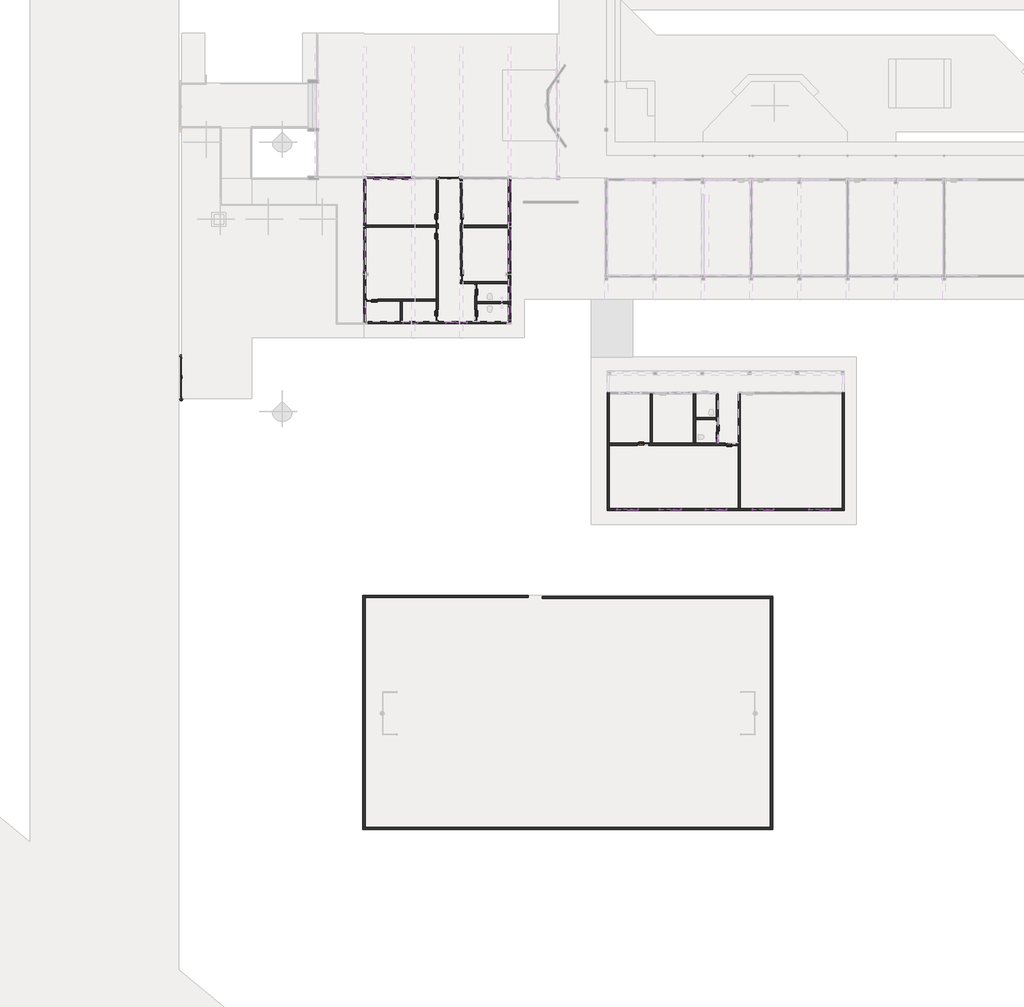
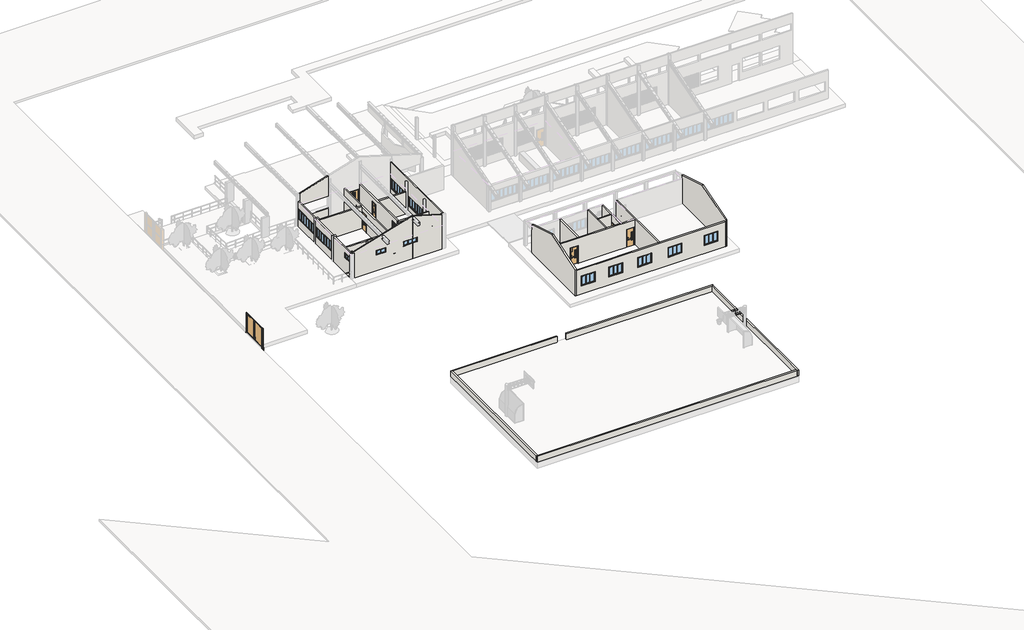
# One storey, part 1 of 12: 30 walls, 15 windows, 13 doors.
"""IFC4 building model written with IfcOpenShell, lengths in millimetres."""

from ifc_helpers import new_model, si_unit, frame, origin, place, context, project, spatial, polyline, outline, extrude, faceted_brep, transform, mapped, element, save
from components import door_2b58ae42, door_062d9f42, door_b9a7b7f6, door_f5953a39, door_f67fff5c, door_7c62873f, double_action_double_door_8597_150x210cm_23852583, pt35_300x235cm_00b904e5, window_300_x_110_bd0b738a, janela_fc375d33, janela_100x50_100_x_50_44f83ede, janela_150x110_150_x_110_7297cc43, janela_150x110_150_x_50_c6653376

model = new_model("IFC4")

# Units and contexts
model_context = context("Model", 3, world=origin())
ifc_project = project(units=[si_unit("LENGTHUNIT", "METRE", prefix="MILLI")], contexts=[model_context])

# Site, building, storey
site = spatial("IfcSite", under=ifc_project)
building = spatial("IfcBuilding", under=site)
storey = spatial("IfcBuildingStorey", under=building, Name="Nível 1", Elevation=0.0)

# Doors
placement = place(None, origin())
door_shape = door_2b58ae42(model_context)
element("IfcDoor", 1, ObjectType="Porta sala de aula e laboratorio : Porta sala de aula e laboratorio", at=placement, inside=storey, context=model_context, shape_type="MappedRepresentation", body=[
    mapped(door_shape, transform((5466.5398414, -3493.8137522, 300.0), x_axis=(-1.0, 0.0, 0.0), y_axis=(0.0, -1.0, 0.0), z_axis=(0.0, 0.0, 1.0))),
])
element("IfcDoor", 2, ObjectType="Porta area administrativa : Porta area administrativa", at=placement, inside=storey, context=model_context, shape_type="MappedRepresentation", body=[
    mapped(door_shape, transform((-7713.3111843, 8826.1710904, 300.0), x_axis=(0.0, 1.0, 0.0), y_axis=(-1.0, 0.0, 0.0), z_axis=(0.0, 0.0, 1.0))),
])
element("IfcDoor", 3, ObjectType="Porta area administrativa : Porta area administrativa", at=placement, inside=storey, context=model_context, shape_type="MappedRepresentation", body=[
    mapped(door_shape, transform((-9463.3111843, 11736.0481484, 300.0), x_axis=(0.0, -1.0, 0.0), y_axis=(1.0, 0.0, 0.0), z_axis=(0.0, 0.0, 1.0))),
])
element("IfcDoor", 4, ObjectType="Porta area administrativa : Porta area administrativa", at=placement, inside=storey, context=model_context, shape_type="MappedRepresentation", body=[
    mapped(door_shape, transform((-7713.3111843, 12923.0714891, 300.0), x_axis=(0.0, 1.0, 0.0), y_axis=(-1.0, 0.0, 0.0), z_axis=(0.0, 0.0, 1.0))),
])
door_2_shape = door_062d9f42(model_context)
element("IfcDoor", 5, ObjectType="Porta banheiros : Porta banheiros", at=placement, inside=storey, context=model_context, shape_type="MappedRepresentation", body=[
    mapped(door_2_shape, transform((10851.5285525, -2193.7444242, 300.0), x_axis=(0.0, -1.0, 0.0), y_axis=(1.0, 0.0, 0.0), z_axis=(0.0, 0.0, 1.0))),
])
element("IfcDoor", 6, ObjectType="Porta banheiros : Porta banheiros", at=placement, inside=storey, context=model_context, shape_type="MappedRepresentation", body=[
    mapped(door_2_shape, transform((-6663.3111843, 7676.1710904, 300.0), x_axis=(0.0, -1.0, 0.0), y_axis=(1.0, 0.0, 0.0), z_axis=(0.0, 0.0, 1.0))),
])
door_3_shape = door_b9a7b7f6(model_context)
element("IfcDoor", 7, ObjectType="Porta banheiros : Porta banheiros", at=placement, inside=storey, context=model_context, shape_type="MappedRepresentation", body=[
    mapped(door_3_shape, transform((-6663.3111843, 5866.1710904, 300.0), x_axis=(0.0, 1.0, 0.0), y_axis=(-1.0, 0.0, 0.0), z_axis=(0.0, 0.0, 1.0))),
])
door_4_shape = door_f5953a39(model_context)
element("IfcDoor", 8, ObjectType="Porta area de servico : Porta area de servico", at=placement, inside=storey, context=model_context, shape_type="MappedRepresentation", body=[
    mapped(door_4_shape, transform((-9463.3111843, 5886.1710904, 300.0), x_axis=(0.0, 1.0, 0.0), y_axis=(-1.0, 0.0, 0.0), z_axis=(0.0, 0.0, 1.0))),
])
door_5_shape = door_f67fff5c(model_context)
element("IfcDoor", 9, ObjectType="Porta area de servico : Porta area de servico", at=placement, inside=storey, context=model_context, shape_type="MappedRepresentation", body=[
    mapped(door_5_shape, transform((-14153.4946316, 6971.1710904, 300.0), x_axis=(1.0, 0.0, 0.0), y_axis=(0.0, 1.0, 0.0), z_axis=(0.0, 0.0, 1.0))),
])
door_6_shape = door_7c62873f(model_context)
element("IfcDoor", 10, ObjectType="Porta area administrativa : Porta area administrativa", at=placement, inside=storey, context=model_context, shape_type="MappedRepresentation", body=[
    mapped(door_6_shape, transform((-9463.3111843, 12906.0481484, 300.0), x_axis=(0.0, 1.0, 0.0), y_axis=(-1.0, 0.0, 0.0), z_axis=(0.0, 0.0, 1.0))),
])
element("IfcDoor", 11, ObjectType="Porta sala de aula e laboratorio : Porta sala de aula e laboratorio", at=placement, inside=storey, context=model_context, shape_type="MappedRepresentation", body=[
    mapped(door_6_shape, transform((11831.5285525, -3493.8137522, 300.0), x_axis=(-1.0, 0.0, 0.0), y_axis=(0.0, -1.0, 0.0), z_axis=(0.0, 0.0, 1.0))),
])
double_action_double_door_8597_150x210cm_shape = double_action_double_door_8597_150x210cm_23852583(model_context)
element("IfcDoor", 12, ObjectType="Double_action_double_door_8597 : 150x210cm", at=placement, inside=storey, context=model_context, shape_type="MappedRepresentation", body=[
    mapped(double_action_double_door_8597_150x210cm_shape, transform((-8603.3111843, 15821.0481484, 300.0), x_axis=(-1.0, 0.0, 0.0), y_axis=(0.0, -1.0, 0.0), z_axis=(0.0, 0.0, 1.0))),
])
pt35_300x235cm_shape = pt35_300x235cm_00b904e5(model_context)
element("IfcDoor", 13, ObjectType="FDE_PT34_PT35_Portão_UsoExterno_GradilEletrofundido_2Folhas : PT35_300x235cm", at=placement, inside=storey, context=model_context, shape_type="MappedRepresentation", body=[
    mapped(pt35_300x235cm_shape, transform((-28018.5268603, 1331.1862478, -20.0), x_axis=(0.0, -1.0, 0.0), y_axis=(1.0, 0.0, 0.0), z_axis=(0.0, 0.0, 1.0))),
])

# Walls
element("IfcWall", 14, ObjectType="15cm - Parede Genérica", at=placement, inside=storey, context=model_context, shape_type="Brep", body=[
    faceted_brep([(-14793.4946316, 6491.1710904, 2165.0), (-14793.4946316, 6491.1710904, 2735.0), (-14793.4946316, 5422.1410552, 2735.0), (-14793.4946316, 5422.1410552, 3300.0), (-14793.4946316, 8727.5037043, 3300.0), (-14793.4946316, 8727.5037043, 300.0), (-14793.4946316, 5422.1410552, 300.0), (-14793.4946316, 5422.1410552, 2165.0), (-14643.4946316, 6491.1710904, 2735.0), (-14643.4946316, 6491.1710904, 2165.0), (-14643.4946316, 5422.1410552, 2165.0), (-14643.4946316, 5422.1410552, 300.0), (-14643.4946316, 6896.1710904, 300.0), (-14643.4946316, 7046.1710904, 300.0), (-14643.4946316, 8727.5037043, 300.0), (-14643.4946316, 8727.5037043, 3300.0), (-14643.4946316, 5422.1410552, 3300.0), (-14643.4946316, 5422.1410552, 2735.0)], [[[0, 1, 2, 3, 4, 5, 6, 7]], [[8, 9, 10, 11, 12, 13, 14, 15, 16, 17]], [[11, 6, 5, 14, 13, 12]], [[3, 16, 15, 4]], [[0, 9, 8, 1]], [[1, 8, 17, 2]], [[9, 0, 7, 10]], [[3, 2, 17, 16]], [[7, 6, 11, 10]], [[5, 4, 15, 14]]]),
    faceted_brep([(-14793.4946316, 15703.5059011, 3300.0), (-14793.4946316, 15703.5059011, 300.0), (-14793.4946316, 12421.0481484, 300.0), (-14793.4946316, 12421.0481484, 3300.0), (-14793.4946316, 15571.0481484, 1265.0), (-14793.4946316, 15571.0481484, 2435.0), (-14793.4946316, 12571.0481484, 2435.0), (-14793.4946316, 12571.0481484, 1265.0), (-14643.4946316, 15703.5059011, 300.0), (-14643.4946316, 15703.5059011, 3300.0), (-14643.4946316, 12421.0481484, 3300.0), (-14643.4946316, 12421.0481484, 300.0), (-14643.4946316, 15571.0481484, 2435.0), (-14643.4946316, 15571.0481484, 1265.0), (-14643.4946316, 12571.0481484, 1265.0), (-14643.4946316, 12571.0481484, 2435.0)], [[[0, 1, 2, 3], [4, 5, 6, 7]], [[8, 9, 10, 11], [12, 13, 14, 15]], [[1, 8, 11, 2]], [[9, 0, 3, 10]], [[5, 4, 13, 12]], [[6, 5, 12, 15]], [[7, 6, 15, 14]], [[4, 7, 14, 13]], [[1, 0, 9, 8]], [[3, 2, 11, 10]]]),
    faceted_brep([(-14793.4946316, 8927.5037043, 300.0), (-14793.4946316, 8927.5037043, 3300.0), (-14793.4946316, 12221.0481484, 3300.0), (-14793.4946316, 12221.0481484, 300.0), (-14793.4946316, 12092.5101884, 1265.0), (-14793.4946316, 12092.5101884, 2435.0), (-14793.4946316, 9092.5101884, 2435.0), (-14793.4946316, 9092.5101884, 1265.0), (-14643.4946316, 8927.5037043, 3300.0), (-14643.4946316, 8927.5037043, 300.0), (-14643.4946316, 12221.0481484, 300.0), (-14643.4946316, 12221.0481484, 3300.0), (-14643.4946316, 12092.5101884, 2435.0), (-14643.4946316, 12092.5101884, 1265.0), (-14643.4946316, 9092.5101884, 1265.0), (-14643.4946316, 9092.5101884, 2435.0)], [[[0, 1, 2, 3], [4, 5, 6, 7]], [[8, 9, 10, 11], [12, 13, 14, 15]], [[9, 0, 3, 10]], [[1, 8, 11, 2]], [[5, 4, 13, 12]], [[6, 5, 12, 15]], [[7, 6, 15, 14]], [[4, 7, 14, 13]], [[1, 0, 9, 8]], [[3, 2, 11, 10]]]),
])
element("IfcWall", 15, ObjectType="15cm - Parede Genérica", at=placement, inside=storey, context=model_context, shape_type="Brep", body=[
    faceted_brep([(-7793.4946316, 5246.1710904, 2735.0), (-7793.4946316, 5246.1710904, 5418.2821612), (-7793.4946316, 5246.1710904, 5419.227627), (-14643.4946316, 5246.1710904, 3364.227627), (-14643.4946316, 5246.1710904, 3300.0), (-14440.0642381, 5246.1710904, 3300.0), (-14440.0642381, 5246.1710904, 300.0), (-7793.4946316, 5246.1710904, 300.0), (-7793.4946316, 5246.1710904, 2165.0), (-8848.3111843, 5246.1710904, 2165.0), (-8848.3111843, 5246.1710904, 2735.0), (-10858.4946316, 5246.1710904, 2735.0), (-10858.4946316, 5246.1710904, 2165.0), (-11928.4946316, 5246.1710904, 2165.0), (-11928.4946316, 5246.1710904, 2735.0), (-7793.4946316, 5396.1710904, 5419.227627), (-7793.4946316, 5396.1710904, 5418.2821612), (-7793.4946316, 5396.1710904, 2735.0), (-8848.3111843, 5396.1710904, 2735.0), (-8848.3111843, 5396.1710904, 2165.0), (-7793.4946316, 5396.1710904, 2165.0), (-7793.4946316, 5396.1710904, 300.0), (-9388.3111843, 5396.1710904, 300.0), (-9538.3111843, 5396.1710904, 300.0), (-11993.4946316, 5396.1710904, 300.0), (-12143.4946316, 5396.1710904, 300.0), (-14440.0642381, 5396.1710904, 300.0), (-14440.0642381, 5396.1710904, 3300.0), (-14643.4946316, 5396.1710904, 3300.0), (-14643.4946316, 5396.1710904, 3364.227627), (-10858.4946316, 5396.1710904, 2165.0), (-10858.4946316, 5396.1710904, 2735.0), (-11928.4946316, 5396.1710904, 2735.0), (-11928.4946316, 5396.1710904, 2165.0)], [[[0, 1, 2, 3, 4, 5, 6, 7, 8, 9, 10], [11, 12, 13, 14]], [[15, 16, 17, 18, 19, 20, 21, 22, 23, 24, 25, 26, 27, 28, 29], [30, 31, 32, 33]], [[21, 7, 6, 26, 25, 24, 23, 22]], [[7, 21, 20, 8]], [[2, 1, 0, 17, 16, 15]], [[3, 29, 28, 4]], [[30, 12, 11, 31]], [[31, 11, 14, 32]], [[32, 14, 13, 33]], [[12, 30, 33, 13]], [[5, 27, 26, 6]], [[27, 5, 4, 28]], [[10, 18, 17, 0]], [[18, 10, 9, 19]], [[19, 9, 8, 20]], [[29, 3, 2, 15]]]),
])
element("IfcWall", 16, ObjectType="15cm - Parede Genérica", at=placement, inside=storey, context=model_context, shape_type="Brep", body=[
    faceted_brep([(-4138.3111843, 15706.1797638, 300.0), (-4138.3111843, 15706.1797638, 3800.0), (-4138.3111843, 15690.170769, 3800.0), (-4138.3111843, 15690.170769, 4321.727127), (-4138.3111843, 5422.1410552, 4321.727127), (-4138.3111843, 5422.1410552, 300.0), (-4138.3111843, 8727.5037043, 300.0), (-4138.3111843, 8727.5037043, 4100.0), (-4138.3111843, 8927.5037043, 4100.0), (-4138.3111843, 8927.5037043, 300.0), (-4138.3111843, 12219.8342458, 300.0), (-4138.3111843, 12219.8342458, 4100.0), (-4138.3111843, 12419.8342458, 4100.0), (-4138.3111843, 12419.8342458, 300.0), (-4138.3111843, 9072.5101884, 1265.0), (-4138.3111843, 9072.5101884, 2435.0), (-4138.3111843, 12072.5101884, 2435.0), (-4138.3111843, 12072.5101884, 1265.0), (-4138.3111843, 12571.0481484, 1265.0), (-4138.3111843, 12571.0481484, 2435.0), (-4138.3111843, 15571.0481484, 2435.0), (-4138.3111843, 15571.0481484, 1265.0), (-4138.3111843, 6581.1710904, 2735.0), (-4138.3111843, 6581.1710904, 2165.0), (-4138.3111843, 5511.1710904, 2165.0), (-4138.3111843, 5511.1710904, 2735.0), (-4138.3111843, 8031.1710904, 2735.0), (-4138.3111843, 8031.1710904, 2165.0), (-4138.3111843, 6961.1710904, 2165.0), (-4138.3111843, 6961.1710904, 2735.0), (-4288.3111843, 15706.1797638, 3800.0), (-4288.3111843, 15706.1797638, 300.0), (-4288.3111843, 12419.8342458, 300.0), (-4288.3111843, 12419.8342458, 4100.0), (-4288.3111843, 12219.8342458, 4100.0), (-4288.3111843, 12219.8342458, 300.0), (-4288.3111843, 8927.5037043, 300.0), (-4288.3111843, 8927.5037043, 4100.0), (-4288.3111843, 8727.5037043, 4100.0), (-4288.3111843, 8727.5037043, 300.0), (-4288.3111843, 8296.1710904, 300.0), (-4288.3111843, 8146.1710904, 300.0), (-4288.3111843, 6846.1710904, 300.0), (-4288.3111843, 6696.1710904, 300.0), (-4288.3111843, 5422.1410552, 300.0), (-4288.3111843, 5422.1410552, 4366.727127), (-4288.3111843, 15690.170769, 4366.727127), (-4288.3111843, 15690.170769, 3800.0), (-4288.3111843, 9072.5101884, 2435.0), (-4288.3111843, 9072.5101884, 1265.0), (-4288.3111843, 12072.5101884, 1265.0), (-4288.3111843, 12072.5101884, 2435.0), (-4288.3111843, 12571.0481484, 2435.0), (-4288.3111843, 12571.0481484, 1265.0), (-4288.3111843, 15571.0481484, 1265.0), (-4288.3111843, 15571.0481484, 2435.0), (-4288.3111843, 6581.1710904, 2165.0), (-4288.3111843, 6581.1710904, 2735.0), (-4288.3111843, 5511.1710904, 2735.0), (-4288.3111843, 5511.1710904, 2165.0), (-4288.3111843, 8031.1710904, 2165.0), (-4288.3111843, 8031.1710904, 2735.0), (-4288.3111843, 6961.1710904, 2735.0), (-4288.3111843, 6961.1710904, 2165.0)], [[[0, 1, 2, 3, 4, 5, 6, 7, 8, 9, 10, 11, 12, 13], [14, 15, 16, 17], [18, 19, 20, 21], [22, 23, 24, 25], [26, 27, 28, 29]], [[30, 31, 32, 33, 34, 35, 36, 37, 38, 39, 40, 41, 42, 43, 44, 45, 46, 47], [48, 49, 50, 51], [52, 53, 54, 55], [56, 57, 58, 59], [60, 61, 62, 63]], [[9, 36, 35, 10]], [[5, 44, 43, 42, 41, 40, 39, 6]], [[31, 0, 13, 32]], [[15, 14, 49, 48]], [[16, 15, 48, 51]], [[17, 16, 51, 50]], [[14, 17, 50, 49]], [[19, 18, 53, 52]], [[20, 19, 52, 55]], [[21, 20, 55, 54]], [[18, 21, 54, 53]], [[57, 56, 23, 22]], [[58, 57, 22, 25]], [[59, 58, 25, 24]], [[56, 59, 24, 23]], [[60, 27, 26, 61]], [[61, 26, 29, 62]], [[62, 29, 28, 63]], [[27, 60, 63, 28]], [[1, 0, 31, 30]], [[5, 4, 45, 44]], [[9, 8, 37, 36]], [[7, 6, 39, 38]], [[12, 33, 32, 13]], [[34, 11, 10, 35]], [[7, 38, 37, 8]], [[11, 34, 33, 12]], [[47, 2, 1, 30]], [[2, 47, 46, 3]], [[3, 46, 45, 4]]]),
])
element("IfcWall", 17, ObjectType="15cm - Parede Genérica", at=placement, inside=storey, context=model_context, shape_type="SweptSolid", body=[
    extrude(outline(polyline([(-9538.3111843, 12246.0481484), (-14643.4946316, 12246.0481484), (-14643.4946316, 12396.0481484), (-9538.3111843, 12396.0481484), (-9538.3111843, 12246.0481484)])), frame((0.0, 0.0, 300.0), z_axis=(0.0, 0.0, 1.0), x_axis=(1.0, 0.0, 0.0)), (0.0, 0.0, 1.0), 2660.0),
])
element("IfcWall", 18, ObjectType="15cm - Parede Genérica", at=placement, inside=storey, context=model_context, shape_type="Brep", body=[
    faceted_brep([(-9388.3111843, 15746.0481484, 2960.0), (-9388.3111843, 5396.1710904, 2960.0), (-9388.3111843, 5396.1710904, 300.0), (-9388.3111843, 5456.1710904, 300.0), (-9388.3111843, 5456.1710904, 2300.0), (-9388.3111843, 6316.1710904, 2300.0), (-9388.3111843, 6316.1710904, 300.0), (-9388.3111843, 11306.0481484, 300.0), (-9388.3111843, 11306.0481484, 2430.0), (-9388.3111843, 12166.0481484, 2430.0), (-9388.3111843, 12166.0481484, 300.0), (-9388.3111843, 12476.0481484, 300.0), (-9388.3111843, 12476.0481484, 2430.0), (-9388.3111843, 13336.0481484, 2430.0), (-9388.3111843, 13336.0481484, 300.0), (-9388.3111843, 15746.0481484, 300.0), (-9538.3111843, 5396.1710904, 2960.0), (-9538.3111843, 6896.1710904, 2960.0), (-9538.3111843, 7046.1710904, 2960.0), (-9538.3111843, 12246.0481484, 2960.0), (-9538.3111843, 12396.0481484, 2960.0), (-9538.3111843, 15746.0481484, 2960.0), (-9538.3111843, 15746.0481484, 300.0), (-9538.3111843, 13336.0481484, 300.0), (-9538.3111843, 13336.0481484, 2430.0), (-9538.3111843, 12476.0481484, 2430.0), (-9538.3111843, 12476.0481484, 300.0), (-9538.3111843, 12396.0481484, 300.0), (-9538.3111843, 12246.0481484, 300.0), (-9538.3111843, 12166.0481484, 300.0), (-9538.3111843, 12166.0481484, 2430.0), (-9538.3111843, 11306.0481484, 2430.0), (-9538.3111843, 11306.0481484, 300.0), (-9538.3111843, 7046.1710904, 300.0), (-9538.3111843, 6896.1710904, 300.0), (-9538.3111843, 6316.1710904, 300.0), (-9538.3111843, 6316.1710904, 2300.0), (-9538.3111843, 5456.1710904, 2300.0), (-9538.3111843, 5456.1710904, 300.0), (-9538.3111843, 5396.1710904, 300.0)], [[[0, 1, 2, 3, 4, 5, 6, 7, 8, 9, 10, 11, 12, 13, 14, 15]], [[16, 17, 18, 19, 20, 21, 22, 23, 24, 25, 26, 27, 28, 29, 30, 31, 32, 33, 34, 35, 36, 37, 38, 39]], [[22, 15, 14, 23]], [[2, 39, 38, 3]], [[6, 35, 34, 33, 32, 7]], [[10, 29, 28, 27, 26, 11]], [[1, 0, 21, 20, 19, 18, 17, 16]], [[0, 15, 22, 21]], [[2, 1, 16, 39]], [[5, 36, 35, 6]], [[36, 5, 4, 37]], [[37, 4, 3, 38]], [[31, 8, 7, 32]], [[8, 31, 30, 9]], [[9, 30, 29, 10]], [[13, 24, 23, 14]], [[24, 13, 12, 25]], [[25, 12, 11, 26]]]),
])
element("IfcWall", 19, ObjectType="15cm - Parede Genérica", at=placement, inside=storey, context=model_context, shape_type="Brep", body=[
    faceted_brep([(-14643.4946316, 7046.1710904, 2960.0), (-9538.3111843, 7046.1710904, 2960.0), (-9538.3111843, 7046.1710904, 300.0), (-13723.4946316, 7046.1710904, 300.0), (-13723.4946316, 7046.1710904, 2300.0), (-14583.4946316, 7046.1710904, 2300.0), (-14583.4946316, 7046.1710904, 300.0), (-14643.4946316, 7046.1710904, 300.0), (-9538.3111843, 6896.1710904, 2960.0), (-11993.4946316, 6896.1710904, 2960.0), (-12143.4946316, 6896.1710904, 2960.0), (-14643.4946316, 6896.1710904, 2960.0), (-14643.4946316, 6896.1710904, 300.0), (-14583.4946316, 6896.1710904, 300.0), (-14583.4946316, 6896.1710904, 2300.0), (-13723.4946316, 6896.1710904, 2300.0), (-13723.4946316, 6896.1710904, 300.0), (-12143.4946316, 6896.1710904, 300.0), (-11993.4946316, 6896.1710904, 300.0), (-9538.3111843, 6896.1710904, 300.0)], [[[0, 1, 2, 3, 4, 5, 6, 7]], [[8, 9, 10, 11, 12, 13, 14, 15, 16, 17, 18, 19]], [[2, 19, 18, 17, 16, 3]], [[12, 7, 6, 13]], [[1, 0, 11, 10, 9, 8]], [[0, 7, 12, 11]], [[2, 1, 8, 19]], [[15, 4, 3, 16]], [[4, 15, 14, 5]], [[5, 14, 13, 6]]]),
])
element("IfcWall", 20, ObjectType="15cm - Parede Genérica", at=placement, inside=storey, context=model_context, shape_type="SweptSolid", body=[
    extrude(outline(polyline([(-11993.4946316, 6896.1710904), (-11993.4946316, 5396.1710904), (-12143.4946316, 5396.1710904), (-12143.4946316, 6896.1710904), (-11993.4946316, 6896.1710904)])), frame((0.0, 0.0, 300.0), z_axis=(0.0, 0.0, 1.0), x_axis=(1.0, 0.0, 0.0)), (0.0, 0.0, 1.0), 2660.0),
])
element("IfcWall", 21, ObjectType="15cm - Parede Genérica", at=placement, inside=storey, context=model_context, shape_type="Brep", body=[
    faceted_brep([(-6738.3111843, 5396.1710904, 2960.0), (-6738.3111843, 8146.1710904, 2960.0), (-6738.3111843, 8146.1710904, 300.0), (-6738.3111843, 8106.1710904, 300.0), (-6738.3111843, 8106.1710904, 2430.0), (-6738.3111843, 7246.1710904, 2430.0), (-6738.3111843, 7246.1710904, 300.0), (-6738.3111843, 6296.1710904, 300.0), (-6738.3111843, 6296.1710904, 2430.0), (-6738.3111843, 5436.1710904, 2430.0), (-6738.3111843, 5436.1710904, 300.0), (-6738.3111843, 5396.1710904, 300.0), (-6588.3111843, 8146.1710904, 2960.0), (-6588.3111843, 6846.1710904, 2960.0), (-6588.3111843, 6696.1710904, 2960.0), (-6588.3111843, 5396.1710904, 2960.0), (-6588.3111843, 5396.1710904, 300.0), (-6588.3111843, 5436.1710904, 300.0), (-6588.3111843, 5436.1710904, 2430.0), (-6588.3111843, 6296.1710904, 2430.0), (-6588.3111843, 6296.1710904, 300.0), (-6588.3111843, 6696.1710904, 300.0), (-6588.3111843, 6846.1710904, 300.0), (-6588.3111843, 7246.1710904, 300.0), (-6588.3111843, 7246.1710904, 2430.0), (-6588.3111843, 8106.1710904, 2430.0), (-6588.3111843, 8106.1710904, 300.0), (-6588.3111843, 8146.1710904, 300.0)], [[[0, 1, 2, 3, 4, 5, 6, 7, 8, 9, 10, 11]], [[12, 13, 14, 15, 16, 17, 18, 19, 20, 21, 22, 23, 24, 25, 26, 27]], [[16, 11, 10, 17]], [[2, 27, 26, 3]], [[20, 7, 6, 23, 22, 21]], [[1, 0, 15, 14, 13, 12]], [[0, 11, 16, 15]], [[2, 1, 12, 27]], [[19, 8, 7, 20]], [[8, 19, 18, 9]], [[9, 18, 17, 10]], [[5, 24, 23, 6]], [[24, 5, 4, 25]], [[25, 4, 3, 26]]]),
])
element("IfcWall", 22, ObjectType="15cm - Parede Genérica", at=placement, inside=storey, context=model_context, shape_type="Brep", body=[
    faceted_brep([(-4288.3111843, 8296.1710904, 300.0), (-7638.3111843, 8296.1710904, 300.0), (-7788.3111843, 8296.1710904, 300.0), (-7788.3111843, 8296.1710904, 2960.0), (-7638.3111843, 8296.1710904, 2960.0), (-4288.3111843, 8296.1710904, 2960.0), (-4288.3111843, 8146.1710904, 300.0), (-4288.3111843, 8146.1710904, 2960.0), (-6588.3111843, 8146.1710904, 2960.0), (-6738.3111843, 8146.1710904, 2960.0), (-7788.3111843, 8146.1710904, 2960.0), (-7788.3111843, 8146.1710904, 300.0), (-6738.3111843, 8146.1710904, 300.0), (-6588.3111843, 8146.1710904, 300.0)], [[[0, 1, 2, 3, 4, 5]], [[6, 7, 8, 9, 10, 11, 12, 13]], [[2, 1, 0, 6, 13, 12, 11]], [[5, 4, 3, 10, 9, 8, 7]], [[0, 5, 7, 6]], [[3, 2, 11, 10]]]),
])
element("IfcWall", 23, ObjectType="15cm - Parede Genérica", at=placement, inside=storey, context=model_context, shape_type="Brep", body=[
    faceted_brep([(-7788.3111843, 8296.1710904, 300.0), (-7788.3111843, 8296.1710904, 2960.0), (-7788.3111843, 15702.3778449, 2960.0), (-7788.3111843, 15702.3778449, 300.0), (-7788.3111843, 13353.0714891, 300.0), (-7788.3111843, 13353.0714891, 2430.0), (-7788.3111843, 12493.0714891, 2430.0), (-7788.3111843, 12493.0714891, 300.0), (-7788.3111843, 9256.1710904, 300.0), (-7788.3111843, 9256.1710904, 2430.0), (-7788.3111843, 8396.1710904, 2430.0), (-7788.3111843, 8396.1710904, 300.0), (-7638.3111843, 8296.1710904, 2960.0), (-7638.3111843, 8296.1710904, 300.0), (-7638.3111843, 8396.1710904, 300.0), (-7638.3111843, 8396.1710904, 2430.0), (-7638.3111843, 9256.1710904, 2430.0), (-7638.3111843, 9256.1710904, 300.0), (-7638.3111843, 12243.0714891, 300.0), (-7638.3111843, 12393.0714891, 300.0), (-7638.3111843, 12493.0714891, 300.0), (-7638.3111843, 12493.0714891, 2430.0), (-7638.3111843, 13353.0714891, 2430.0), (-7638.3111843, 13353.0714891, 300.0), (-7638.3111843, 15702.3778449, 300.0), (-7638.3111843, 15702.3778449, 2960.0), (-7638.3111843, 12393.0714891, 2960.0), (-7638.3111843, 12243.0714891, 2960.0)], [[[0, 1, 2, 3, 4, 5, 6, 7, 8, 9, 10, 11]], [[12, 13, 14, 15, 16, 17, 18, 19, 20, 21, 22, 23, 24, 25, 26, 27]], [[13, 0, 11, 14]], [[17, 8, 7, 20, 19, 18]], [[23, 4, 3, 24]], [[1, 12, 27, 26, 25, 2]], [[1, 0, 13, 12]], [[16, 9, 8, 17]], [[9, 16, 15, 10]], [[10, 15, 14, 11]], [[22, 5, 4, 23]], [[5, 22, 21, 6]], [[6, 21, 20, 7]], [[3, 2, 25, 24]]]),
])
element("IfcWall", 24, ObjectType="15cm - Parede Genérica", at=placement, inside=storey, context=model_context, shape_type="SweptSolid", body=[
    extrude(outline(polyline([(-4288.3111843, 12243.0714891), (-7638.3111843, 12243.0714891), (-7638.3111843, 12393.0714891), (-4288.3111843, 12393.0714891), (-4288.3111843, 12243.0714891)])), frame((0.0, 0.0, 300.0), z_axis=(0.0, 0.0, 1.0), x_axis=(1.0, 0.0, 0.0)), (0.0, 0.0, 1.0), 2660.0),
])
element("IfcWall", 25, ObjectType="15cm - Parede Genérica", at=placement, inside=storey, context=model_context, shape_type="SweptSolid", body=[
    extrude(outline(polyline([(-4288.3111843, 6696.1710904), (-6588.3111843, 6696.1710904), (-6588.3111843, 6846.1710904), (-4288.3111843, 6846.1710904), (-4288.3111843, 6696.1710904)])), frame((0.0, 0.0, 300.0), z_axis=(0.0, 0.0, 1.0), x_axis=(1.0, 0.0, 0.0)), (0.0, 0.0, 1.0), 2660.0),
])
element("IfcWall", 26, ObjectType="15cm - Parede Genérica", at=placement, inside=storey, context=model_context, shape_type="Brep", body=[
    faceted_brep([(10776.5285525, -3418.8137522, 3300.0), (10776.5285525, -1708.7444242, 3300.0), (10776.5285525, -1558.7444242, 3300.0), (10776.5285525, 151.3249037, 3300.0), (10776.5285525, 151.3249037, 300.0), (10776.5285525, -1558.7444242, 300.0), (10776.5285525, -1708.7444242, 300.0), (10776.5285525, -1763.7444242, 300.0), (10776.5285525, -1763.7444242, 2430.0), (10776.5285525, -2623.7444242, 2430.0), (10776.5285525, -2623.7444242, 300.0), (10776.5285525, -3418.8137522, 300.0), (10776.5285525, -2908.8137522, 2400.0), (10776.5285525, -2908.8137522, 2900.0), (10776.5285525, -3408.8137522, 2900.0), (10776.5285525, -3408.8137522, 2400.0), (10926.5285525, 151.3249037, 3300.0), (10926.5285525, -3418.8137522, 3300.0), (10926.5285525, -3418.8137522, 300.0), (10926.5285525, -2623.7444242, 300.0), (10926.5285525, -2623.7444242, 2430.0), (10926.5285525, -1763.7444242, 2430.0), (10926.5285525, -1763.7444242, 300.0), (10926.5285525, 151.3249037, 300.0), (10926.5285525, -2908.8137522, 2400.0), (10926.5285525, -3408.8137522, 2400.0), (10926.5285525, -3408.8137522, 2900.0), (10926.5285525, -2908.8137522, 2900.0)], [[[0, 1, 2, 3, 4, 5, 6, 7, 8, 9, 10, 11], [12, 13, 14, 15]], [[16, 17, 18, 19, 20, 21, 22, 23], [24, 25, 26, 27]], [[4, 23, 22, 7, 6, 5]], [[18, 11, 10, 19]], [[3, 2, 1, 0, 17, 16]], [[4, 3, 16, 23]], [[0, 11, 18, 17]], [[9, 20, 19, 10]], [[20, 9, 8, 21]], [[21, 8, 7, 22]], [[13, 12, 24, 27]], [[14, 13, 27, 26]], [[15, 14, 26, 25]], [[12, 15, 25, 24]]]),
])
element("IfcWall", 27, ObjectType="15cm - Parede Genérica", at=placement, inside=storey, context=model_context, shape_type="Brep", body=[
    faceted_brep([(19926.5285525, 301.3249037, 3662.9553906), (19926.5285525, 301.3249037, 3300.0), (19926.5285525, 301.3249037, 3100.0), (19926.5285525, 301.3249037, 300.0), (19926.5285525, 151.3249037, 300.0), (19926.5285525, -8148.8137522, 300.0), (19926.5285525, -8298.8137522, 300.0), (19926.5285525, -8298.8137522, 3300.0), (19926.5285525, -8298.8137522, 3438.460915), (19926.5285525, -3624.6911316, 4840.6977012), (20076.5285525, 301.3249037, 300.0), (20076.5285525, 301.3249037, 3100.0), (20076.5285525, 301.3249037, 3662.9553906), (20076.5285525, -3624.6911316, 4840.7602012), (20076.5285525, -8298.8137522, 3438.460915), (20076.5285525, -8298.8137522, 300.0)], [[[0, 1, 2, 3, 4, 5, 6, 7, 8, 9]], [[10, 11, 12, 13, 14, 15]], [[6, 5, 4, 3, 10, 15]], [[8, 7, 6, 15, 14]], [[9, 8, 14, 13]], [[0, 9, 13, 12]], [[0, 12, 11, 10, 3, 2, 1]]]),
])
element("IfcWall", 28, ObjectType="15cm - Parede Genérica", at=placement, inside=storey, context=model_context, shape_type="Brep", body=[
    faceted_brep([(19926.5285525, -8148.8137522, 300.0), (12526.5285525, -8148.8137522, 300.0), (12376.5285525, -8148.8137522, 300.0), (3026.5285525, -8148.8137522, 300.0), (3026.5285525, -8148.8137522, 3300.0), (12376.5285525, -8148.8137522, 3300.0), (12526.5285525, -8148.8137522, 3300.0), (19926.5285525, -8148.8137522, 3300.0), (17491.5285525, -8148.8137522, 1265.0), (19061.5285525, -8148.8137522, 1265.0), (19061.5285525, -8148.8137522, 2435.0), (17491.5285525, -8148.8137522, 2435.0), (13391.5285525, -8148.8137522, 1265.0), (14961.5285525, -8148.8137522, 1265.0), (14961.5285525, -8148.8137522, 2435.0), (13391.5285525, -8148.8137522, 2435.0), (9971.5285525, -8148.8137522, 1265.0), (11541.5285525, -8148.8137522, 1265.0), (11541.5285525, -8148.8137522, 2435.0), (9971.5285525, -8148.8137522, 2435.0), (6661.5285525, -8148.8137522, 1265.0), (8231.5285525, -8148.8137522, 1265.0), (8231.5285525, -8148.8137522, 2435.0), (6661.5285525, -8148.8137522, 2435.0), (3551.5285525, -8148.8137522, 1265.0), (5121.5285525, -8148.8137522, 1265.0), (5121.5285525, -8148.8137522, 2435.0), (3551.5285525, -8148.8137522, 2435.0), (19926.5285525, -8298.8137522, 300.0), (19926.5285525, -8298.8137522, 3300.0), (3026.5285525, -8298.8137522, 3300.0), (3026.5285525, -8298.8137522, 300.0), (17491.5285525, -8298.8137522, 1265.0), (17491.5285525, -8298.8137522, 2435.0), (19061.5285525, -8298.8137522, 2435.0), (19061.5285525, -8298.8137522, 1265.0), (13391.5285525, -8298.8137522, 1265.0), (13391.5285525, -8298.8137522, 2435.0), (14961.5285525, -8298.8137522, 2435.0), (14961.5285525, -8298.8137522, 1265.0), (9971.5285525, -8298.8137522, 1265.0), (9971.5285525, -8298.8137522, 2435.0), (11541.5285525, -8298.8137522, 2435.0), (11541.5285525, -8298.8137522, 1265.0), (6661.5285525, -8298.8137522, 1265.0), (6661.5285525, -8298.8137522, 2435.0), (8231.5285525, -8298.8137522, 2435.0), (8231.5285525, -8298.8137522, 1265.0), (3551.5285525, -8298.8137522, 1265.0), (3551.5285525, -8298.8137522, 2435.0), (5121.5285525, -8298.8137522, 2435.0), (5121.5285525, -8298.8137522, 1265.0)], [[[0, 1, 2, 3, 4, 5, 6, 7], [8, 9, 10, 11], [12, 13, 14, 15], [16, 17, 18, 19], [20, 21, 22, 23], [24, 25, 26, 27]], [[28, 29, 30, 31], [32, 33, 34, 35], [36, 37, 38, 39], [40, 41, 42, 43], [44, 45, 46, 47], [48, 49, 50, 51]], [[3, 2, 1, 0, 28, 31]], [[7, 6, 5, 4, 30, 29]], [[0, 7, 29, 28]], [[33, 32, 8, 11]], [[34, 33, 11, 10]], [[35, 34, 10, 9]], [[32, 35, 9, 8]], [[37, 36, 12, 15]], [[38, 37, 15, 14]], [[39, 38, 14, 13]], [[36, 39, 13, 12]], [[41, 40, 16, 19]], [[42, 41, 19, 18]], [[43, 42, 18, 17]], [[40, 43, 17, 16]], [[45, 44, 20, 23]], [[46, 45, 23, 22]], [[47, 46, 22, 21]], [[44, 47, 21, 20]], [[49, 48, 24, 27]], [[50, 49, 27, 26]], [[51, 50, 26, 25]], [[48, 51, 25, 24]], [[4, 3, 31, 30]]]),
])
element("IfcWall", 29, ObjectType="15cm - Parede Genérica", at=placement, inside=storey, context=model_context, shape_type="Brep", body=[
    faceted_brep([(3026.5285525, -8298.8137522, 300.0), (3026.5285525, -8148.8137522, 300.0), (3026.5285525, -3568.8137522, 300.0), (3026.5285525, -3418.8137522, 300.0), (3026.5285525, 151.3249037, 300.0), (3026.5285525, 301.3249037, 300.0), (3026.5285525, 301.3249037, 3100.0), (3026.5285525, 301.3249037, 3300.0), (3026.5285525, 301.3249037, 3662.9553906), (3026.5285525, -3624.6911316, 4840.7602012), (3026.5285525, -8298.8137522, 3438.460915), (3026.5285525, -8298.8137522, 3300.0), (2876.5285525, -8298.8137522, 300.0), (2876.5285525, -8298.8137522, 3438.460915), (2876.5285525, -3624.6911316, 4840.6977012), (2876.5285525, 301.3249037, 3662.9553906), (2876.5285525, 301.3249037, 3100.0), (2876.5285525, 301.3249037, 300.0)], [[[0, 1, 2, 3, 4, 5, 6, 7, 8, 9, 10, 11]], [[12, 13, 14, 15, 16, 17]], [[5, 4, 3, 2, 1, 0, 12, 17]], [[0, 11, 10, 13, 12]], [[9, 8, 15, 14]], [[10, 9, 14, 13]], [[5, 17, 16, 15, 8, 7, 6]]]),
])
element("IfcWall", 30, ObjectType="15cm - Parede Genérica", at=placement, inside=storey, context=model_context, shape_type="Brep", body=[
    faceted_brep([(12376.5285525, -3568.8137522, 3300.0), (3026.5285525, -3568.8137522, 3300.0), (3026.5285525, -3568.8137522, 300.0), (5036.5398414, -3568.8137522, 300.0), (5036.5398414, -3568.8137522, 2430.0), (5896.5398414, -3568.8137522, 2430.0), (5896.5398414, -3568.8137522, 300.0), (11401.5285525, -3568.8137522, 300.0), (11401.5285525, -3568.8137522, 2430.0), (12261.5285525, -3568.8137522, 2430.0), (12261.5285525, -3568.8137522, 300.0), (12376.5285525, -3568.8137522, 300.0), (3026.5285525, -3418.8137522, 3300.0), (5976.5398414, -3418.8137522, 3300.0), (6126.5398414, -3418.8137522, 3300.0), (9126.5285525, -3418.8137522, 3300.0), (9276.5285525, -3418.8137522, 3300.0), (10776.5285525, -3418.8137522, 3300.0), (10926.5285525, -3418.8137522, 3300.0), (12376.5285525, -3418.8137522, 3300.0), (12376.5285525, -3418.8137522, 300.0), (12261.5285525, -3418.8137522, 300.0), (12261.5285525, -3418.8137522, 2430.0), (11401.5285525, -3418.8137522, 2430.0), (11401.5285525, -3418.8137522, 300.0), (10926.5285525, -3418.8137522, 300.0), (10776.5285525, -3418.8137522, 300.0), (9276.5285525, -3418.8137522, 300.0), (9126.5285525, -3418.8137522, 300.0), (6126.5398414, -3418.8137522, 300.0), (5976.5398414, -3418.8137522, 300.0), (5896.5398414, -3418.8137522, 300.0), (5896.5398414, -3418.8137522, 2430.0), (5036.5398414, -3418.8137522, 2430.0), (5036.5398414, -3418.8137522, 300.0), (3026.5285525, -3418.8137522, 300.0)], [[[0, 1, 2, 3, 4, 5, 6, 7, 8, 9, 10, 11]], [[12, 13, 14, 15, 16, 17, 18, 19, 20, 21, 22, 23, 24, 25, 26, 27, 28, 29, 30, 31, 32, 33, 34, 35]], [[2, 35, 34, 3]], [[20, 11, 10, 21]], [[6, 31, 30, 29, 28, 27, 26, 25, 24, 7]], [[1, 0, 19, 18, 17, 16, 15, 14, 13, 12]], [[2, 1, 12, 35]], [[0, 11, 20, 19]], [[33, 4, 3, 34]], [[4, 33, 32, 5]], [[5, 32, 31, 6]], [[23, 8, 7, 24]], [[8, 23, 22, 9]], [[9, 22, 21, 10]]]),
])
element("IfcWall", 31, ObjectType="15cm - Parede Genérica", at=placement, inside=storey, context=model_context, shape_type="Brep", body=[
    faceted_brep([(12376.5285525, 151.3249037, 300.0), (12376.5285525, -3418.8137522, 300.0), (12376.5285525, -3568.8137522, 300.0), (12376.5285525, -8148.8137522, 300.0), (12376.5285525, -8148.8137522, 3300.0), (12376.5285525, -3568.8137522, 3300.0), (12376.5285525, -3418.8137522, 3300.0), (12376.5285525, 151.3249037, 3300.0), (12526.5285525, 151.3249037, 300.0), (12526.5285525, 151.3249037, 3300.0), (12526.5285525, -8148.8137522, 3300.0), (12526.5285525, -8148.8137522, 300.0)], [[[0, 1, 2, 3, 4, 5, 6, 7]], [[8, 9, 10, 11]], [[3, 2, 1, 0, 8, 11]], [[7, 6, 5, 4, 10, 9]], [[0, 7, 9, 8]], [[4, 3, 11, 10]]]),
])
element("IfcWall", 32, ObjectType="15cm - Parede Genérica", at=placement, inside=storey, context=model_context, shape_type="Brep", body=[
    faceted_brep([(9276.5285525, -3418.8137522, 300.0), (9276.5285525, -1708.7444242, 300.0), (9276.5285525, -1558.7444242, 300.0), (9276.5285525, 151.3249037, 300.0), (9276.5285525, 151.3249037, 3300.0), (9276.5285525, -1558.7444242, 3300.0), (9276.5285525, -1708.7444242, 3300.0), (9276.5285525, -3418.8137522, 3300.0), (9126.5285525, -3418.8137522, 300.0), (9126.5285525, -3418.8137522, 3300.0), (9126.5285525, 151.3249037, 3300.0), (9126.5285525, 151.3249037, 300.0)], [[[0, 1, 2, 3, 4, 5, 6, 7]], [[8, 9, 10, 11]], [[3, 2, 1, 0, 8, 11]], [[7, 6, 5, 4, 10, 9]], [[4, 3, 11, 10]], [[0, 7, 9, 8]]]),
])
element("IfcWall", 33, ObjectType="15cm - Parede Genérica", at=placement, inside=storey, context=model_context, shape_type="SweptSolid", body=[
    extrude(outline(polyline([(6126.5398414, 151.3249037), (6126.5398414, -3418.8137522), (5976.5398414, -3418.8137522), (5976.5398414, 151.3249037), (6126.5398414, 151.3249037)])), frame((0.0, 0.0, 300.0), z_axis=(0.0, 0.0, 1.0), x_axis=(1.0, 0.0, 0.0)), (0.0, 0.0, 1.0), 3000.0),
])
element("IfcWall", 34, ObjectType="15cm - Parede Genérica", at=placement, inside=storey, context=model_context, shape_type="SweptSolid", body=[
    extrude(outline(polyline([(10776.5285525, -1708.7444242), (9276.5285525, -1708.7444242), (9276.5285525, -1558.7444242), (10776.5285525, -1558.7444242), (10776.5285525, -1708.7444242)])), frame((0.0, 0.0, 300.0), z_axis=(0.0, 0.0, 1.0), x_axis=(1.0, 0.0, 0.0)), (0.0, 0.0, 1.0), 3000.0),
])
element("IfcWall", 35, ObjectType="15cm - Parede Genérica", at=placement, inside=storey, context=model_context, shape_type="Brep", body=[
    faceted_brep([(-14563.4946316, 15896.0481484, 2960.0), (-14563.4946316, 15896.0481484, 2700.0), (-14563.4946316, 15896.0481484, 1300.0), (-14563.4946316, 15896.0481484, 300.0), (-14573.5268603, 15896.0481484, 300.0), (-14573.5268603, 15896.0481484, 2960.0), (-14563.4946316, 15746.0481484, 300.0), (-14563.4946316, 15746.0481484, 1300.0), (-14563.4946316, 15746.0481484, 2700.0), (-14563.4946316, 15746.0481484, 2960.0), (-14573.5268603, 15746.0481484, 2960.0), (-14573.5268603, 15746.0481484, 300.0)], [[[0, 1, 2, 3, 4, 5]], [[6, 7, 8, 9, 10, 11]], [[3, 6, 11, 4]], [[9, 0, 5, 10]], [[0, 9, 8, 7, 6, 3, 2, 1]], [[5, 4, 11, 10]]]),
])
element("IfcWall", 36, ObjectType="15cm - Parede Genérica", at=placement, inside=storey, context=model_context, shape_type="SweptSolid", body=[
    extrude(outline(polyline([(-14563.4946316, 15896.0481484), (-11323.4946316, 15896.0481484), (-11323.4946316, 15746.0481484), (-14563.4946316, 15746.0481484), (-14563.4946316, 15896.0481484)])), frame((0.0, 0.0, 300.0), z_axis=(0.0, 0.0, 1.0), x_axis=(1.0, 0.0, 0.0)), (0.0, 0.0, 1.0), 1000.0),
])
element("IfcWall", 37, ObjectType="15cm - Parede Genérica", at=placement, inside=storey, context=model_context, shape_type="Brep", body=[
    faceted_brep([(-14563.4946316, 15746.0481484, 2700.0), (-11323.4946316, 15746.0481484, 2700.0), (-11323.4946316, 15746.0481484, 4700.0), (-11323.4946316, 15746.0481484, 5104.2073698), (-14563.4946316, 15746.0481484, 4132.2073698), (-14563.4946316, 15746.0481484, 2960.0), (-14563.4946316, 15896.0481484, 2700.0), (-14563.4946316, 15896.0481484, 2960.0), (-14563.4946316, 15896.0481484, 4132.2073698), (-11323.4946316, 15896.0481484, 5104.2073698), (-11323.4946316, 15896.0481484, 4700.0), (-11323.4946316, 15896.0481484, 2700.0)], [[[0, 1, 2, 3, 4, 5]], [[6, 7, 8, 9, 10, 11]], [[1, 0, 6, 11]], [[3, 2, 1, 11, 10, 9]], [[0, 5, 4, 8, 7, 6]], [[4, 3, 9, 8]]]),
])
element("IfcWall", 38, ObjectType="15cm - Parede Genérica", at=placement, inside=storey, context=model_context, shape_type="SweptSolid", body=[
    extrude(outline(polyline([(-2840.0088254, -14598.8137522), (-14690.0642381, -14598.8137522), (-14690.0642381, -14448.8137522), (-2840.0088254, -14448.8137522), (-2840.0088254, -14598.8137522)])), frame((0.0, 0.0, 550.0), z_axis=(0.0, 0.0, 1.0), x_axis=(1.0, 0.0, 0.0)), (0.0, 0.0, 1.0), 700.0),
])
element("IfcWall", 39, ObjectType="15cm - Parede Genérica", at=placement, inside=storey, context=model_context, shape_type="Brep", body=[
    faceted_brep([(-1840.0088254, -14673.8137521, 550.0), (14709.9357619, -14674.8309156, 550.0), (14859.9357619, -14674.8401346, 550.0), (14859.9357619, -14674.8401346, 1250.0), (14709.9357619, -14674.8309156, 1250.0), (-1840.0088254, -14673.8137521, 1250.0), (-1839.9996063, -14523.8137524, 550.0), (-1839.9996063, -14523.8137524, 1250.0), (14859.9357619, -14524.8401343, 1250.0), (14859.9357619, -14524.8401343, 550.0)], [[[0, 1, 2, 3, 4, 5]], [[6, 7, 8, 9]], [[2, 1, 0, 6, 9]], [[5, 4, 3, 8, 7]], [[0, 5, 7, 6]], [[3, 2, 9, 8]]]),
])
element("IfcWall", 40, ObjectType="15cm - Parede Genérica", at=placement, inside=storey, context=model_context, shape_type="Brep", body=[
    faceted_brep([(14709.9357619, -14674.8309156, 550.0), (14709.9357619, -31298.8202362, 550.0), (14709.9357619, -31448.8202362, 550.0), (14709.9357619, -31448.8202362, 1250.0), (14709.9357619, -31298.8202362, 1250.0), (14709.9357619, -14674.8309156, 1250.0), (14859.9357619, -14674.8401346, 550.0), (14859.9357619, -14674.8401346, 1250.0), (14859.9357619, -31448.8202362, 1250.0), (14859.9357619, -31448.8202362, 550.0)], [[[0, 1, 2, 3, 4, 5]], [[6, 7, 8, 9]], [[2, 1, 0, 6, 9]], [[5, 4, 3, 8, 7]], [[0, 5, 7, 6]], [[3, 2, 9, 8]]]),
])
element("IfcWall", 41, ObjectType="15cm - Parede Genérica", at=placement, inside=storey, context=model_context, shape_type="Brep", body=[
    faceted_brep([(14709.9357619, -31298.8202362, 550.0), (-14690.0642381, -31298.8202362, 550.0), (-14840.0642381, -31298.8202362, 550.0), (-14840.0642381, -31298.8202362, 1250.0), (-14690.0642381, -31298.8202362, 1250.0), (14709.9357619, -31298.8202362, 1250.0), (14709.9357619, -31448.8202362, 550.0), (14709.9357619, -31448.8202362, 1250.0), (-14840.0642381, -31448.8202362, 1250.0), (-14840.0642381, -31448.8202362, 550.0)], [[[0, 1, 2, 3, 4, 5]], [[6, 7, 8, 9]], [[2, 1, 0, 6, 9]], [[5, 4, 3, 8, 7]], [[3, 2, 9, 8]], [[0, 5, 7, 6]]]),
])
element("IfcWall", 42, ObjectType="15cm - Parede Genérica", at=placement, inside=storey, context=model_context, shape_type="Brep", body=[
    faceted_brep([(-14690.0642381, -31298.8202362, 550.0), (-14690.0642381, -14598.8137522, 550.0), (-14690.0642381, -14448.8137522, 550.0), (-14690.0642381, -14448.8137522, 1250.0), (-14690.0642381, -14598.8137522, 1250.0), (-14690.0642381, -31298.8202362, 1250.0), (-14840.0642381, -31298.8202362, 550.0), (-14840.0642381, -31298.8202362, 1250.0), (-14840.0642381, -14448.8137522, 1250.0), (-14840.0642381, -14448.8137522, 550.0)], [[[0, 1, 2, 3, 4, 5]], [[6, 7, 8, 9]], [[2, 1, 0, 6, 9]], [[5, 4, 3, 8, 7]], [[3, 2, 9, 8]], [[0, 5, 7, 6]]]),
])
element("IfcWall", 43, ObjectType="15cm - Parede Genérica", at=placement, inside=storey, context=model_context, shape_type="Brep", body=[
    faceted_brep([(-7793.4946316, 5246.1710904, 5418.2821612), (-7793.4946316, 5246.1710904, 2735.0), (-7278.3111843, 5246.1710904, 2735.0), (-7278.3111843, 5246.1710904, 2165.0), (-7793.4946316, 5246.1710904, 2165.0), (-7793.4946316, 5246.1710904, 300.0), (-4482.1826756, 5246.1710904, 300.0), (-4482.1826756, 5246.1710904, 4424.8885744), (-7793.4946316, 5396.1710904, 2735.0), (-7793.4946316, 5396.1710904, 5418.2821612), (-4482.1826756, 5396.1710904, 4424.8885744), (-4482.1826756, 5396.1710904, 300.0), (-6588.3111843, 5396.1710904, 300.0), (-6738.3111843, 5396.1710904, 300.0), (-7793.4946316, 5396.1710904, 300.0), (-7793.4946316, 5396.1710904, 2165.0), (-7278.3111843, 5396.1710904, 2165.0), (-7278.3111843, 5396.1710904, 2735.0)], [[[0, 1, 2, 3, 4, 5, 6, 7]], [[8, 9, 10, 11, 12, 13, 14, 15, 16, 17]], [[5, 14, 13, 12, 11, 6]], [[1, 0, 9, 8]], [[14, 5, 4, 15]], [[16, 3, 2, 17]], [[17, 2, 1, 8]], [[3, 16, 15, 4]], [[7, 6, 11, 10]], [[9, 0, 7, 10]]]),
])

# Windows
window_300_x_110_shape = window_300_x_110_bd0b738a(model_context)
element("IfcWindow", 44, ObjectType="Janela 6 folhas 300x110 : 300 x 110", at=placement, inside=storey, context=model_context, shape_type="MappedRepresentation", body=[
    mapped(window_300_x_110_shape, transform((-4214.1870238, 10443.1066374, 300.0), x_axis=(0.0, 1.0, 0.0), y_axis=(-1.0, 0.0, 0.0), z_axis=(0.0, 0.0, 1.0))),
])
element("IfcWindow", 45, ObjectType="Janela 6 folhas 300x110 : 300 x 110", at=placement, inside=storey, context=model_context, shape_type="MappedRepresentation", body=[
    mapped(window_300_x_110_shape, transform((-14717.6187921, 10721.9137393, 300.0), x_axis=(0.0, -1.0, 0.0), y_axis=(1.0, 0.0, 0.0), z_axis=(0.0, 0.0, 1.0))),
])
element("IfcWindow", 46, ObjectType="Janela 6 folhas 300x110 : 300 x 110", at=placement, inside=storey, context=model_context, shape_type="MappedRepresentation", body=[
    mapped(window_300_x_110_shape, transform((-4214.1870238, 13941.6445975, 300.0), x_axis=(0.0, 1.0, 0.0), y_axis=(-1.0, 0.0, 0.0), z_axis=(0.0, 0.0, 1.0))),
])
element("IfcWindow", 47, ObjectType="Janela 6 folhas 300x110 : 300 x 110", at=placement, inside=storey, context=model_context, shape_type="MappedRepresentation", body=[
    mapped(window_300_x_110_shape, transform((-14717.6187921, 14200.4516993, 300.0), x_axis=(0.0, -1.0, 0.0), y_axis=(1.0, 0.0, 0.0), z_axis=(0.0, 0.0, 1.0))),
])
janela_shape = janela_fc375d33(model_context)
element("IfcWindow", 48, ObjectType="JANELA : Maxim'ar 50cm", at=placement, inside=storey, context=model_context, shape_type="MappedRepresentation", body=[
    mapped(janela_shape, transform((10851.5285525, -3158.8137522, 1100.0), x_axis=(0.0, -1.0, 0.0), y_axis=(1.0, 0.0, 0.0), z_axis=(0.0, 0.0, 1.0))),
])
janela_100x50_100_x_50_shape = janela_100x50_100_x_50_44f83ede(model_context)
element("IfcWindow", 49, ObjectType="Janela 100x50 : 100 x 50", at=placement, inside=storey, context=model_context, shape_type="MappedRepresentation", body=[
    mapped(janela_100x50_100_x_50_shape, transform((-4212.4353448, 6175.5746413, 600.0), x_axis=(0.0, -1.0, 0.0), y_axis=(1.0, 0.0, 0.0), z_axis=(0.0, 0.0, 1.0))),
])
element("IfcWindow", 50, ObjectType="Janela 100x50 : 100 x 50", at=placement, inside=storey, context=model_context, shape_type="MappedRepresentation", body=[
    mapped(janela_100x50_100_x_50_shape, transform((-4212.4353448, 7625.5746413, 600.0), x_axis=(0.0, -1.0, 0.0), y_axis=(1.0, 0.0, 0.0), z_axis=(0.0, 0.0, 1.0))),
])
element("IfcWindow", 51, ObjectType="Janela 100x50 : 100 x 50", at=placement, inside=storey, context=model_context, shape_type="MappedRepresentation", body=[
    mapped(janela_100x50_100_x_50_shape, transform((-14717.6187921, 6085.5746413, 600.0), x_axis=(0.0, -1.0, 0.0), y_axis=(1.0, 0.0, 0.0), z_axis=(0.0, 0.0, 1.0))),
])
element("IfcWindow", 52, ObjectType="Janela 100x50 : 100 x 50", at=placement, inside=storey, context=model_context, shape_type="MappedRepresentation", body=[
    mapped(janela_100x50_100_x_50_shape, transform((-11264.0910806, 5320.2952508, 600.0), x_axis=(-1.0, 0.0, 0.0), y_axis=(0.0, -1.0, 0.0), z_axis=(0.0, 0.0, 1.0))),
])
janela_150x110_150_x_110_shape = janela_150x110_150_x_110_7297cc43(model_context)
element("IfcWindow", 53, ObjectType="Janela 150x110 : 150 x 110", at=placement, inside=storey, context=model_context, shape_type="MappedRepresentation", body=[
    mapped(janela_150x110_150_x_110_shape, transform((18147.1250015, -8222.9379127, 300.0), x_axis=(1.0, 0.0, 0.0), y_axis=(0.0, 1.0, 0.0), z_axis=(0.0, 0.0, 1.0))),
])
element("IfcWindow", 54, ObjectType="Janela 150x110 : 150 x 110", at=placement, inside=storey, context=model_context, shape_type="MappedRepresentation", body=[
    mapped(janela_150x110_150_x_110_shape, transform((14047.1250015, -8222.9379127, 300.0), x_axis=(1.0, 0.0, 0.0), y_axis=(0.0, 1.0, 0.0), z_axis=(0.0, 0.0, 1.0))),
])
element("IfcWindow", 55, ObjectType="Janela 150x110 : 150 x 110", at=placement, inside=storey, context=model_context, shape_type="MappedRepresentation", body=[
    mapped(janela_150x110_150_x_110_shape, transform((10627.1250015, -8222.9379127, 300.0), x_axis=(1.0, 0.0, 0.0), y_axis=(0.0, 1.0, 0.0), z_axis=(0.0, 0.0, 1.0))),
])
element("IfcWindow", 56, ObjectType="Janela 150x110 : 150 x 110", at=placement, inside=storey, context=model_context, shape_type="MappedRepresentation", body=[
    mapped(janela_150x110_150_x_110_shape, transform((7317.1250015, -8222.9379127, 300.0), x_axis=(1.0, 0.0, 0.0), y_axis=(0.0, 1.0, 0.0), z_axis=(0.0, 0.0, 1.0))),
])
element("IfcWindow", 57, ObjectType="Janela 150x110 : 150 x 110", at=placement, inside=storey, context=model_context, shape_type="MappedRepresentation", body=[
    mapped(janela_150x110_150_x_110_shape, transform((4207.1250015, -8222.9379127, 300.0), x_axis=(1.0, 0.0, 0.0), y_axis=(0.0, 1.0, 0.0), z_axis=(0.0, 0.0, 1.0))),
])
janela_150x110_150_x_50_shape = janela_150x110_150_x_50_c6653376(model_context)
element("IfcWindow", 58, ObjectType="Janela 150x110 : 150 x 50", at=placement, inside=storey, context=model_context, shape_type="MappedRepresentation", body=[
    mapped(janela_150x110_150_x_50_shape, transform((-7933.9076334, 5320.2952508, 1200.0), x_axis=(-1.0, 0.0, 0.0), y_axis=(0.0, -1.0, 0.0), z_axis=(0.0, 0.0, 1.0))),
])

save(model, "model.ifc")
